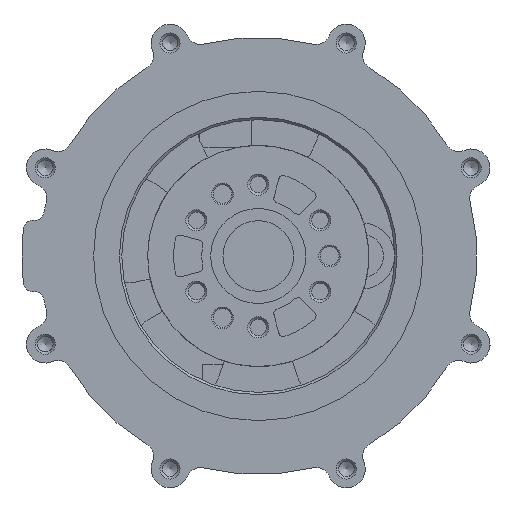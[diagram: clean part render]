
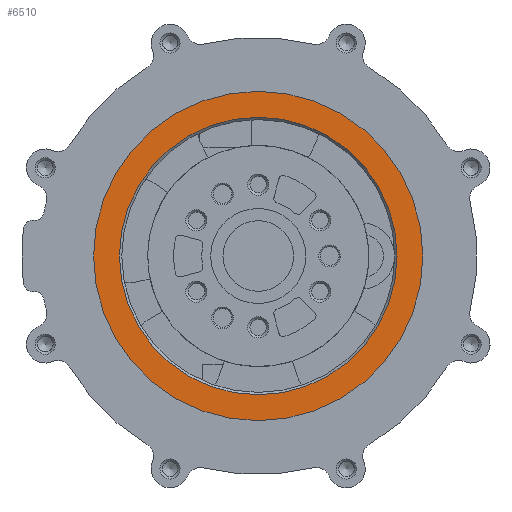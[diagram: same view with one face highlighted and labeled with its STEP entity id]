
A CAD part, front view. The second image highlights one B-rep face of the part: STEP entity #6510.
In plain terms, the highlighted planar face has unit normal (0, -1, 0).
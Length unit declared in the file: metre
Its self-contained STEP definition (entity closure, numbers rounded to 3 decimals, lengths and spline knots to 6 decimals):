
#2425=ORIENTED_EDGE('',*,*,#3535,.F.);
#2426=ORIENTED_EDGE('',*,*,#3534,.F.);
#3534=EDGE_CURVE('',#4237,#4237,#4760,.T.);
#3535=EDGE_CURVE('',#4238,#4238,#4761,.T.);
#4237=VERTEX_POINT('',#11380);
#4238=VERTEX_POINT('',#11383);
#4760=CIRCLE('',#7319,0.035);
#4761=CIRCLE('',#7321,0.0295);
#5290=EDGE_LOOP('',(#2425));
#5291=EDGE_LOOP('',(#2426));
#5900=FACE_BOUND('',#5290,.T.);
#5901=FACE_BOUND('',#5291,.T.);
#6167=PLANE('',#7320);
#6510=ADVANCED_FACE('',(#5900,#5901),#6167,.T.);
#7319=AXIS2_PLACEMENT_3D('',#11379,#9231,#9232);
#7320=AXIS2_PLACEMENT_3D('',#11381,#9233,#9234);
#7321=AXIS2_PLACEMENT_3D('',#11382,#9235,#9236);
#9231=DIRECTION('',(0.,1.,0.));
#9232=DIRECTION('',(-1.,0.,0.));
#9233=DIRECTION('',(0.,-1.,0.));
#9234=DIRECTION('',(0.,0.,-1.));
#9235=DIRECTION('',(0.,-1.,0.));
#9236=DIRECTION('',(1.,0.,0.));
#11379=CARTESIAN_POINT('',(0.2,-0.02525,0.3465));
#11380=CARTESIAN_POINT('',(0.165,-0.02525,0.3465));
#11381=CARTESIAN_POINT('',(0.2,-0.02525,0.3465));
#11382=CARTESIAN_POINT('',(0.2,-0.02525,0.3465));
#11383=CARTESIAN_POINT('',(0.2295,-0.02525,0.3465));
